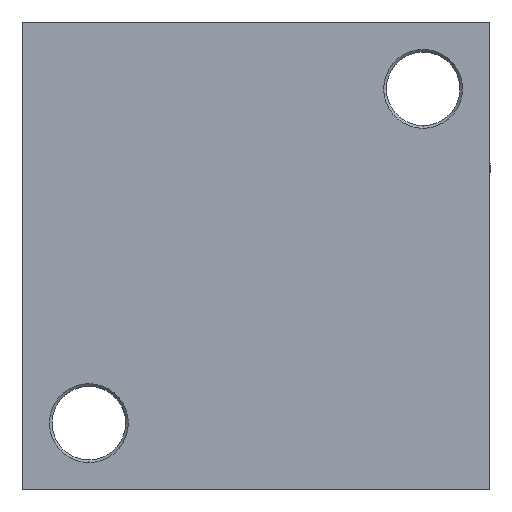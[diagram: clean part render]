
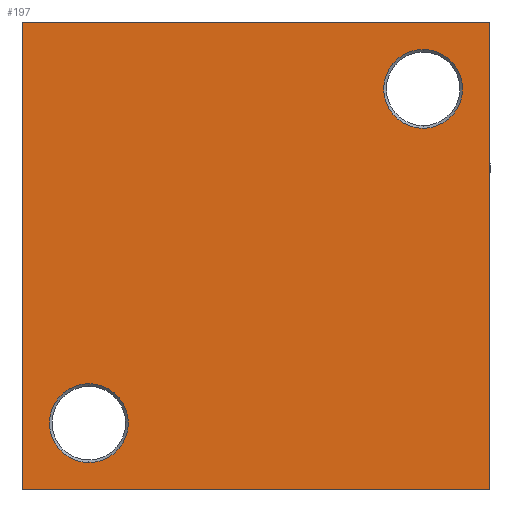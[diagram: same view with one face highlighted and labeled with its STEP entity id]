
A CAD part, left-side view. The second image highlights one B-rep face of the part: STEP entity #197.
In plain terms, the highlighted planar face has unit normal (-1, 0, 0).
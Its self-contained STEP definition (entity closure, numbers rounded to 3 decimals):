
#4 = CIRCLE ( 'NONE', #987, 2.95 ) ;
#12 = VERTEX_POINT ( 'NONE', #1038 ) ;
#64 = CARTESIAN_POINT ( 'NONE',  ( -10., -12.5, 12.5 ) ) ;
#73 = AXIS2_PLACEMENT_3D ( 'NONE', #64, #323, #151 ) ;
#87 = DIRECTION ( 'NONE',  ( 1., 0., 0. ) ) ;
#151 = DIRECTION ( 'NONE',  ( 0., 0., -1. ) ) ;
#154 = EDGE_CURVE ( 'NONE', #193, #677, #621, .T. ) ;
#176 = CARTESIAN_POINT ( 'NONE',  ( -10., 17.5, -17.5 ) ) ;
#193 = VERTEX_POINT ( 'NONE', #383 ) ;
#197 = ADVANCED_FACE ( 'NONE', ( #834, #1098, #304 ), #826, .F. ) ;
#198 = CARTESIAN_POINT ( 'NONE',  ( -10., 17.5, 17.5 ) ) ;
#208 = ORIENTED_EDGE ( 'NONE', *, *, #491, .T. ) ;
#210 = DIRECTION ( 'NONE',  ( 1., 0., 0. ) ) ;
#227 = CARTESIAN_POINT ( 'NONE',  ( -10., -17.5, 17.5 ) ) ;
#243 = VECTOR ( 'NONE', #626, 1000. ) ;
#270 = DIRECTION ( 'NONE',  ( 0., 0., 1. ) ) ;
#275 = LINE ( 'NONE', #176, #625 ) ;
#295 = VECTOR ( 'NONE', #1030, 1000. ) ;
#304 = FACE_OUTER_BOUND ( 'NONE', #337, .T. ) ;
#308 = ORIENTED_EDGE ( 'NONE', *, *, #154, .T. ) ;
#319 = CARTESIAN_POINT ( 'NONE',  ( -10., -17.5, 17.5 ) ) ;
#323 = DIRECTION ( 'NONE',  ( 1., 0., 0. ) ) ;
#325 = ORIENTED_EDGE ( 'NONE', *, *, #478, .F. ) ;
#337 = EDGE_LOOP ( 'NONE', ( #889, #1046, #623, #325 ) ) ;
#354 = EDGE_CURVE ( 'NONE', #359, #1011, #672, .T. ) ;
#359 = VERTEX_POINT ( 'NONE', #227 ) ;
#360 = AXIS2_PLACEMENT_3D ( 'NONE', #1002, #210, #370 ) ;
#370 = DIRECTION ( 'NONE',  ( 0., 0., -1. ) ) ;
#383 = CARTESIAN_POINT ( 'NONE',  ( -10., -12.5, 9.55 ) ) ;
#440 = EDGE_CURVE ( 'NONE', #1011, #12, #275, .T. ) ;
#464 = CARTESIAN_POINT ( 'NONE',  ( -10., 17.5, 17.5 ) ) ;
#478 = EDGE_CURVE ( 'NONE', #12, #863, #715, .T. ) ;
#491 = EDGE_CURVE ( 'NONE', #781, #967, #930, .T. ) ;
#535 = VECTOR ( 'NONE', #270, 1000. ) ;
#571 = CIRCLE ( 'NONE', #73, 2.95 ) ;
#621 = CIRCLE ( 'NONE', #868, 2.95 ) ;
#623 = ORIENTED_EDGE ( 'NONE', *, *, #882, .F. ) ;
#625 = VECTOR ( 'NONE', #1141, 1000. ) ;
#626 = DIRECTION ( 'NONE',  ( 0., -1., 0. ) ) ;
#633 = CARTESIAN_POINT ( 'NONE',  ( -10., 12.5, -15.45 ) ) ;
#638 = ORIENTED_EDGE ( 'NONE', *, *, #723, .T. ) ;
#672 = LINE ( 'NONE', #319, #295 ) ;
#677 = VERTEX_POINT ( 'NONE', #761 ) ;
#704 = CARTESIAN_POINT ( 'NONE',  ( -10., 12.5, -9.55 ) ) ;
#705 = CARTESIAN_POINT ( 'NONE',  ( -10., 12.5, -12.5 ) ) ;
#715 = LINE ( 'NONE', #798, #535 ) ;
#723 = EDGE_CURVE ( 'NONE', #677, #193, #571, .T. ) ;
#745 = DIRECTION ( 'NONE',  ( 0., 0., -1. ) ) ;
#761 = CARTESIAN_POINT ( 'NONE',  ( -10., -12.5, 15.45 ) ) ;
#781 = VERTEX_POINT ( 'NONE', #704 ) ;
#790 = ORIENTED_EDGE ( 'NONE', *, *, #791, .T. ) ;
#791 = EDGE_CURVE ( 'NONE', #967, #781, #4, .T. ) ;
#795 = CARTESIAN_POINT ( 'NONE',  ( -10., -17.5, -17.5 ) ) ;
#798 = CARTESIAN_POINT ( 'NONE',  ( -10., 17.5, 17.5 ) ) ;
#805 = DIRECTION ( 'NONE',  ( 1., 0., 0. ) ) ;
#826 = PLANE ( 'NONE',  #360 ) ;
#833 = DIRECTION ( 'NONE',  ( 1., 0., 0. ) ) ;
#834 = FACE_BOUND ( 'NONE', #1120, .T. ) ;
#863 = VERTEX_POINT ( 'NONE', #464 ) ;
#868 = AXIS2_PLACEMENT_3D ( 'NONE', #1050, #87, #1142 ) ;
#882 = EDGE_CURVE ( 'NONE', #863, #359, #1081, .T. ) ;
#889 = ORIENTED_EDGE ( 'NONE', *, *, #440, .F. ) ;
#923 = EDGE_LOOP ( 'NONE', ( #638, #308 ) ) ;
#930 = CIRCLE ( 'NONE', #1005, 2.95 ) ;
#958 = CARTESIAN_POINT ( 'NONE',  ( -10., 12.5, -12.5 ) ) ;
#967 = VERTEX_POINT ( 'NONE', #633 ) ;
#987 = AXIS2_PLACEMENT_3D ( 'NONE', #958, #805, #1047 ) ;
#1002 = CARTESIAN_POINT ( 'NONE',  ( -10., 0., 0. ) ) ;
#1005 = AXIS2_PLACEMENT_3D ( 'NONE', #705, #833, #745 ) ;
#1011 = VERTEX_POINT ( 'NONE', #795 ) ;
#1030 = DIRECTION ( 'NONE',  ( 0., 0., -1. ) ) ;
#1038 = CARTESIAN_POINT ( 'NONE',  ( -10., 17.5, -17.5 ) ) ;
#1046 = ORIENTED_EDGE ( 'NONE', *, *, #354, .F. ) ;
#1047 = DIRECTION ( 'NONE',  ( 0., 0., -1. ) ) ;
#1050 = CARTESIAN_POINT ( 'NONE',  ( -10., -12.5, 12.5 ) ) ;
#1081 = LINE ( 'NONE', #198, #243 ) ;
#1098 = FACE_BOUND ( 'NONE', #923, .T. ) ;
#1120 = EDGE_LOOP ( 'NONE', ( #208, #790 ) ) ;
#1141 = DIRECTION ( 'NONE',  ( 0., 1., 0. ) ) ;
#1142 = DIRECTION ( 'NONE',  ( 0., 0., -1. ) ) ;
